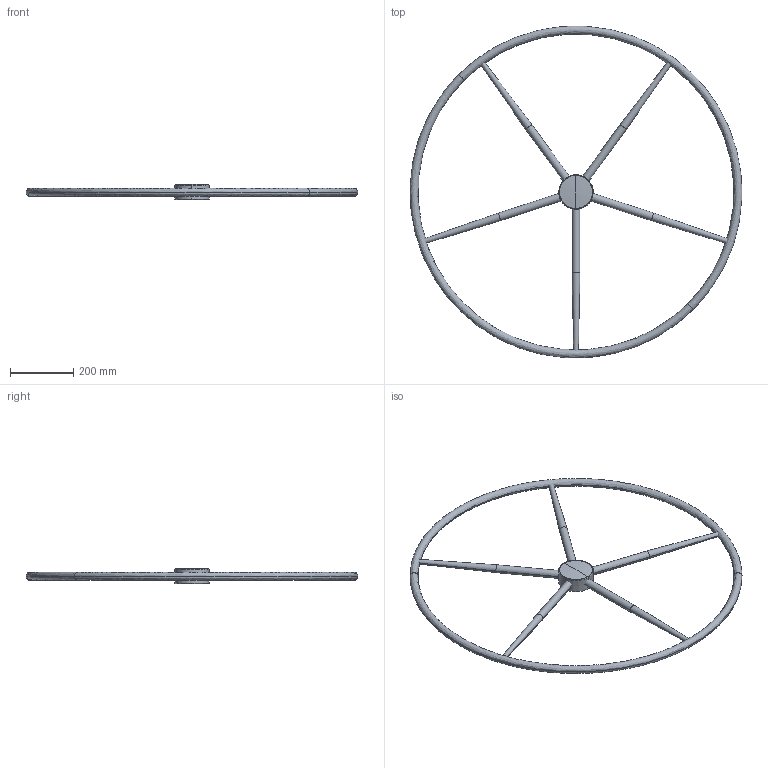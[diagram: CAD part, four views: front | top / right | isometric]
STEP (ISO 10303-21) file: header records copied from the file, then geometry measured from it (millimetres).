
FILE_DESCRIPTION(('STEP AP214'),'1');
FILE_NAME('Z:/J/Jp3/Barre à roue/roue 5 simple rayons/5 spokes Alu or stainless.step','2012-02-23T14:11:51',(' '),(' '),'Spatial InterOp 3D',' ',' ');
FILE_SCHEMA(('automotive_design'));
Length unit declared in the file: metre
Products named in the file (8): @24; @26; @28; @30; @32; @34; @36; @38
Bounding box: 1049.38 x 1048.22 x 48.84 mm (x, y, z)
Volume: 3019611 mm3; surface area: 489099.4 mm2
Topology: 8 solids, 8 shells, 89 faces, 208 edges, 103 vertices
Faces by surface type: bspline 89
Entity records: 5121 total; most frequent: CARTESIAN_POINT 3097, ORIENTED_EDGE 358, EDGE_CURVE 179, B_SPLINE_CURVE_WITH_KNOTS 161, VERTEX_POINT 103, EDGE_LOOP 98, FACE_OUTER_BOUND 90, STYLED_ITEM 89
